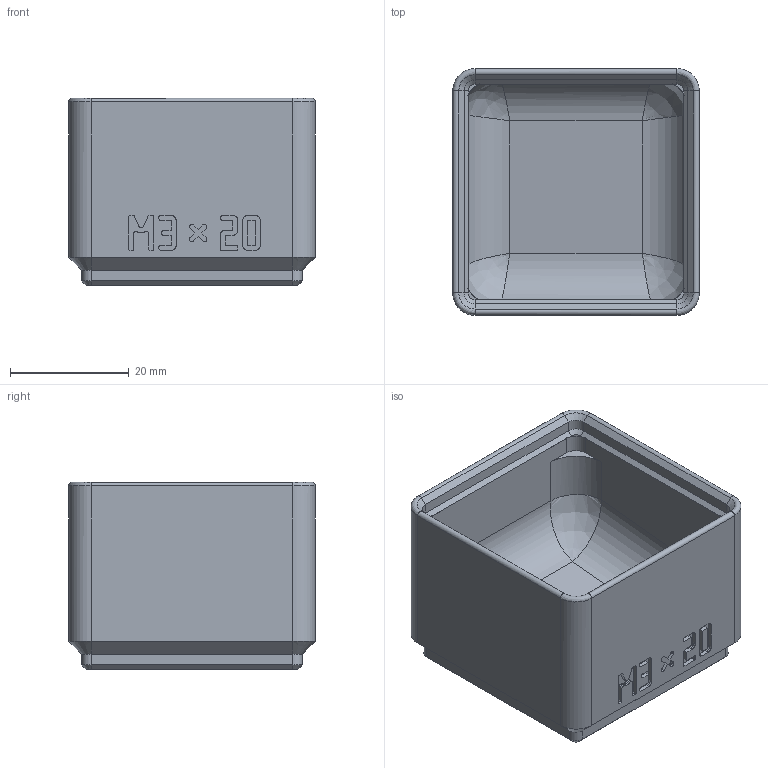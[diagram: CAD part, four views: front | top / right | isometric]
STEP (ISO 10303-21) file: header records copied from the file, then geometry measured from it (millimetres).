
FILE_DESCRIPTION(('Open CASCADE Model'),'2;1');
FILE_NAME('Open CASCADE Shape Model','2026-11-03T17:57:49',('Author'),( 'Open CASCADE'),'Open CASCADE STEP processor 8.0','build123d', 'Unknown');
FILE_SCHEMA(('AUTOMOTIVE_DESIGN { 1 0 10303 214 1 1 1 1 }'));
Length unit declared in the file: millimetre
Products named in the file (1): COMPOUND
Bounding box: 41.5 x 41.5 x 31.55 mm (x, y, z)
Volume: 18947.1 mm3; surface area: 11348.2 mm2
Topology: 1 solids, 1 shells, 625 faces, 1763 edges, 1142 vertices
Faces by surface type: plane 561, cylinder 36, cone 20, bspline 8
Entity records: 44022 total; most frequent: CARTESIAN_POINT 10949, DIRECTION 5385, LINE 4019, VECTOR 4019, ORIENTED_EDGE 3518, PCURVE 3518, DEFINITIONAL_REPRESENTATION 3518, EDGE_CURVE 1759
